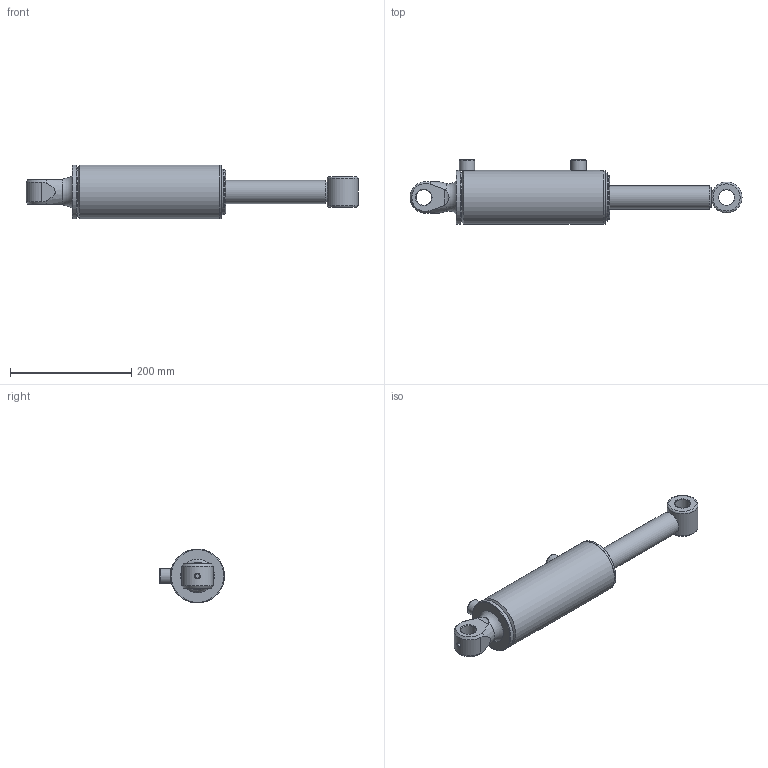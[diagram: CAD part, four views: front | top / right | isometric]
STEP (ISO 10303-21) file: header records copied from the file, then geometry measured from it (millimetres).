
FILE_DESCRIPTION(/* description */ ('Alibre Inc.'),/* implementation_level */ '2;1');
FILE_NAME(/* name */ 'export0',/* time_stamp */ '2016-08-16T09:58:40+12:00',/* author */ (''),/* organization */ (''),/* preprocessor_version */ 'ST-DEVELOPER v14',/* originating_system */ 'Alibre',/* authorisation */ '');
FILE_SCHEMA (('AUTOMOTIVE_DESIGN'));
Length unit declared in the file: centimetre
Bounding box: 547.13 x 106.9 x 88.9 mm (x, y, z)
Volume: 1184002.5 mm3; surface area: 270476 mm2
Topology: 12 solids, 12 shells, 157 faces, 332 edges, 209 vertices
Faces by surface type: cylinder 61, plane 57, cone 23, torus 13, sphere 2, bspline 1
Full cylindrical faces by diameter (mm): 7 x1, 8.3 x2, 8.8 x1, 9.525 x2, 15.25 x2, 23 x1, 23.622 x1, 25 x2, 25.4 x2, 25.451 x1, 38.1 x2, 38.18 x2, 44.45 x1, 46.9 x2, 47.62 x2, 50.8 x1, 60.33 x1, 69.2 x1, 70.36 x1, 71.6 x2, 72.57 x2, 72.87 x1, 74.83 x2, 76.09 x2, 76.1 x1, 76.2 x2, 79.4 x1, 88.9 x3
Entity records: 4365 total; most frequent: CARTESIAN_POINT 1210, DIRECTION 599, ORIENTED_EDGE 456, AXIS2_PLACEMENT_3D 310, FACE_BOUND 271, EDGE_LOOP 269, EDGE_CURVE 228, VERTEX_POINT 191
